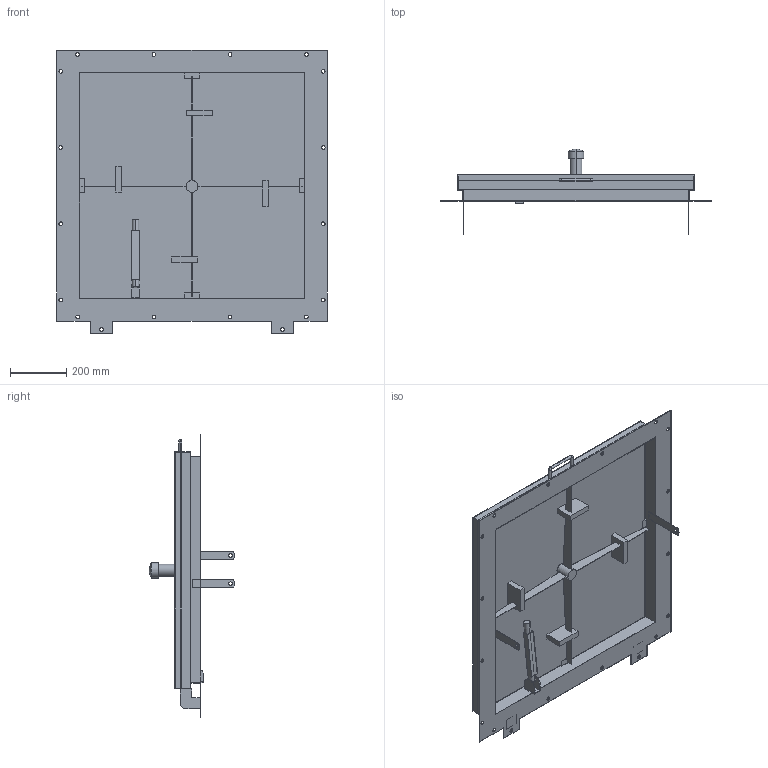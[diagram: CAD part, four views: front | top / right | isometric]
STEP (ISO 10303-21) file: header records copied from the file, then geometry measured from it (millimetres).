
FILE_DESCRIPTION((''),'2;1');
FILE_NAME('52427748','2025-08-05T10:26:48',('wep'),('HUBER SE'),'CREO PARAMETRIC BY PTC INC, 2022162','CREO PARAMETRIC BY PTC INC, 2022162','');
FILE_SCHEMA(('AUTOMOTIVE_DESIGN { 1 0 10303 214 1 1 1 1 }'));
Length unit declared in the file: millimetre
Products named in the file (1): 52427748
Bounding box: 960 x 303 x 1005 mm (x, y, z)
Volume: 4904895.4 mm3; surface area: 4341745.4 mm2
Topology: 3 solids, 4 shells, 819 faces, 2217 edges, 1467 vertices
Faces by surface type: plane 476, extrusion 275, cylinder 62, bspline 2, torus 2, sphere 2
Entity records: 27555 total; most frequent: CARTESIAN_POINT 7182, ORIENTED_EDGE 4422, DIRECTION 3148, EDGE_CURVE 2211, VECTOR 1808, LINE 1533, VERTEX_POINT 1467, EDGE_LOOP 934
